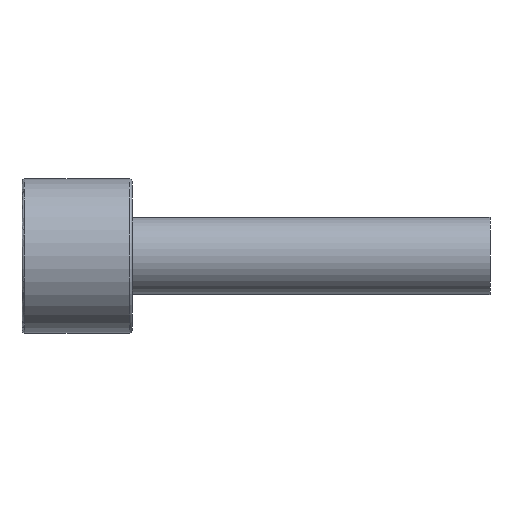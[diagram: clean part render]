
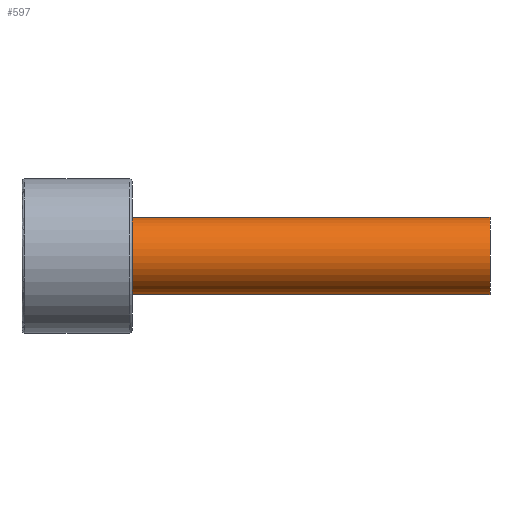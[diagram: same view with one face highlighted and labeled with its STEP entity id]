
A CAD part, front view. The second image highlights one B-rep face of the part: STEP entity #597.
In plain terms, the highlighted cylindrical face has radius 7 mm (diameter 14 mm), a partial arc.
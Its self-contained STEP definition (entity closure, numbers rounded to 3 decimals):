
#431=CARTESIAN_POINT('Vertex',(85.,0.,7.)) ;
#434=CARTESIAN_POINT('Axis2P3D Location',(85.,0.,0.)) ;
#438=CARTESIAN_POINT('Vertex',(85.,-7.,0.)) ;
#441=CARTESIAN_POINT('Axis2P3D Location',(85.,0.,0.)) ;
#445=CARTESIAN_POINT('Vertex',(85.,0.,-7.)) ;
#537=CARTESIAN_POINT('Line Origine',(85.,0.,7.)) ;
#541=CARTESIAN_POINT('Vertex',(20.,0.,7.)) ;
#544=CARTESIAN_POINT('Line Origine',(85.,0.,-7.)) ;
#548=CARTESIAN_POINT('Vertex',(20.,0.,-7.)) ;
#572=CARTESIAN_POINT('Axis2P3D Location',(85.,0.,0.)) ;
#577=CARTESIAN_POINT('Axis2P3D Location',(20.,0.,0.)) ;
#581=CARTESIAN_POINT('Vertex',(20.,-7.,0.)) ;
#584=CARTESIAN_POINT('Axis2P3D Location',(20.,0.,0.)) ;
#435=DIRECTION('Axis2P3D Direction',(1.,0.,-0.)) ;
#442=DIRECTION('Axis2P3D Direction',(1.,0.,-0.)) ;
#538=DIRECTION('Vector Direction',(-1.,0.,0.)) ;
#545=DIRECTION('Vector Direction',(-1.,0.,0.)) ;
#573=DIRECTION('Axis2P3D Direction',(-1.,-0.,-0.)) ;
#574=DIRECTION('Axis2P3D XDirection',(0.,0.,-1.)) ;
#578=DIRECTION('Axis2P3D Direction',(-1.,-0.,-0.)) ;
#585=DIRECTION('Axis2P3D Direction',(-1.,-0.,-0.)) ;
#436=AXIS2_PLACEMENT_3D('Circle Axis2P3D',#434,#435,$) ;
#443=AXIS2_PLACEMENT_3D('Circle Axis2P3D',#441,#442,$) ;
#575=AXIS2_PLACEMENT_3D('Cylinder Axis2P3D',#572,#573,#574) ;
#579=AXIS2_PLACEMENT_3D('Circle Axis2P3D',#577,#578,$) ;
#586=AXIS2_PLACEMENT_3D('Circle Axis2P3D',#584,#585,$) ;
#590=ORIENTED_EDGE('',*,*,#550,.T.) ;
#591=ORIENTED_EDGE('',*,*,#447,.F.) ;
#592=ORIENTED_EDGE('',*,*,#440,.F.) ;
#593=ORIENTED_EDGE('',*,*,#543,.T.) ;
#594=ORIENTED_EDGE('',*,*,#583,.T.) ;
#595=ORIENTED_EDGE('',*,*,#588,.T.) ;
#539=VECTOR('Line Direction',#538,1.) ;
#546=VECTOR('Line Direction',#545,1.) ;
#597=ADVANCED_FACE('367F-14X85',(#596),#576,.T.) ;
#437=CIRCLE('generated circle',#436,7.) ;
#444=CIRCLE('generated circle',#443,7.) ;
#580=CIRCLE('generated circle',#579,7.) ;
#587=CIRCLE('generated circle',#586,7.) ;
#576=CYLINDRICAL_SURFACE('generated cylinder',#575,7.) ;
#440=EDGE_CURVE('',#432,#439,#437,.T.) ;
#447=EDGE_CURVE('',#439,#446,#444,.T.) ;
#543=EDGE_CURVE('',#432,#542,#540,.T.) ;
#550=EDGE_CURVE('',#549,#446,#547,.F.) ;
#583=EDGE_CURVE('',#542,#582,#580,.F.) ;
#588=EDGE_CURVE('',#582,#549,#587,.F.) ;
#589=EDGE_LOOP('',(#590,#591,#592,#593,#594,#595)) ;
#596=FACE_OUTER_BOUND('',#589,.T.) ;
#540=LINE('Line',#537,#539) ;
#547=LINE('Line',#544,#546) ;
#432=VERTEX_POINT('',#431) ;
#439=VERTEX_POINT('',#438) ;
#446=VERTEX_POINT('',#445) ;
#542=VERTEX_POINT('',#541) ;
#549=VERTEX_POINT('',#548) ;
#582=VERTEX_POINT('',#581) ;
